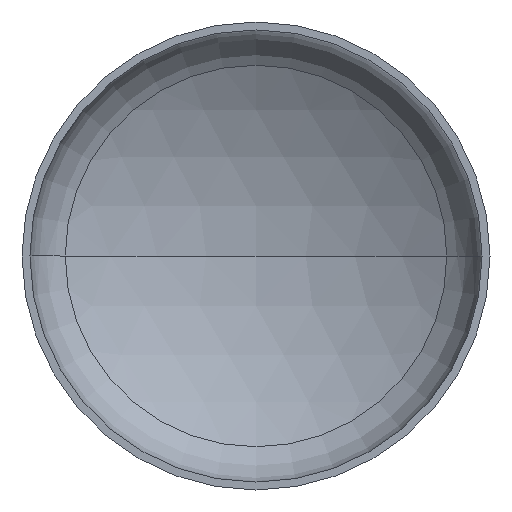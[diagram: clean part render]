
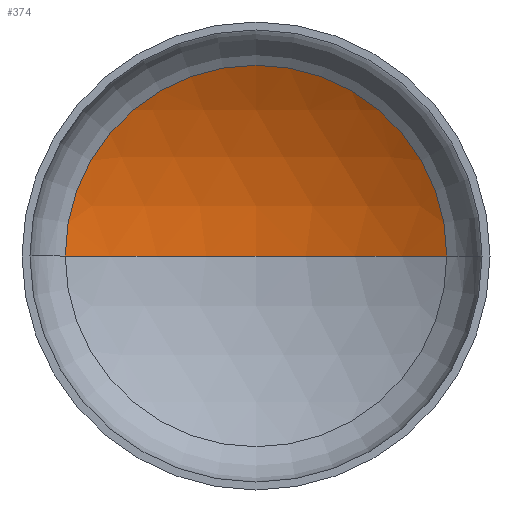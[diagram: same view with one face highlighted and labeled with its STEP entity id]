
A CAD part, front view. The second image highlights one B-rep face of the part: STEP entity #374.
In plain terms, the highlighted spherical face has radius 5200 mm.
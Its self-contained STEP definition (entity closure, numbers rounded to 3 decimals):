
#6 = ORIENTED_EDGE ( 'NONE', *, *, #363, .T. ) ;
#9 = EDGE_LOOP ( 'NONE', ( #64, #24, #6 ) ) ;
#24 = ORIENTED_EDGE ( 'NONE', *, *, #296, .T. ) ;
#47 = VERTEX_POINT ( 'NONE', #226 ) ;
#64 = ORIENTED_EDGE ( 'NONE', *, *, #322, .F. ) ;
#68 = CARTESIAN_POINT ( 'NONE',  ( 0., -3538.918, 0. ) ) ;
#100 = AXIS2_PLACEMENT_3D ( 'NONE', #313, #146, #343 ) ;
#101 = DIRECTION ( 'NONE',  ( 0., 0., 1. ) ) ;
#104 = DIRECTION ( 'NONE',  ( 1., 0., 0. ) ) ;
#111 = VERTEX_POINT ( 'NONE', #356 ) ;
#124 = CARTESIAN_POINT ( 'NONE',  ( 0., -3538.918, 0. ) ) ;
#125 = DIRECTION ( 'NONE',  ( 0., 0., -1. ) ) ;
#135 = CIRCLE ( 'NONE', #100, 2649.524 ) ;
#138 = VERTEX_POINT ( 'NONE', #309 ) ;
#139 = DIRECTION ( 'NONE',  ( -1., 0., 0. ) ) ;
#145 = DIRECTION ( 'NONE',  ( 0., 0., -1. ) ) ;
#146 = DIRECTION ( 'NONE',  ( 0., -1., 0. ) ) ;
#160 = CIRCLE ( 'NONE', #395, 5200. ) ;
#181 = DIRECTION ( 'NONE',  ( -1., 0., 0. ) ) ;
#184 = AXIS2_PLACEMENT_3D ( 'NONE', #290, #145, #181 ) ;
#226 = CARTESIAN_POINT ( 'NONE',  ( -2649.524, 935.457, 0. ) ) ;
#246 = CIRCLE ( 'NONE', #334, 5200. ) ;
#290 = CARTESIAN_POINT ( 'NONE',  ( 0., -3538.918, 0. ) ) ;
#292 = FACE_OUTER_BOUND ( 'NONE', #9, .T. ) ;
#296 = EDGE_CURVE ( 'NONE', #111, #138, #246, .T. ) ;
#309 = CARTESIAN_POINT ( 'NONE',  ( 2649.524, 935.457, 0. ) ) ;
#313 = CARTESIAN_POINT ( 'NONE',  ( 0., 935.457, 0. ) ) ;
#322 = EDGE_CURVE ( 'NONE', #111, #47, #160, .T. ) ;
#334 = AXIS2_PLACEMENT_3D ( 'NONE', #124, #125, #139 ) ;
#343 = DIRECTION ( 'NONE',  ( 1., 0., 0. ) ) ;
#355 = SPHERICAL_SURFACE ( 'NONE', #184, 5200. ) ;
#356 = CARTESIAN_POINT ( 'NONE',  ( 0., 1661.082, 0. ) ) ;
#363 = EDGE_CURVE ( 'NONE', #138, #47, #135, .T. ) ;
#374 = ADVANCED_FACE ( 'NONE', ( #292 ), #355, .F. ) ;
#395 = AXIS2_PLACEMENT_3D ( 'NONE', #68, #101, #104 ) ;
